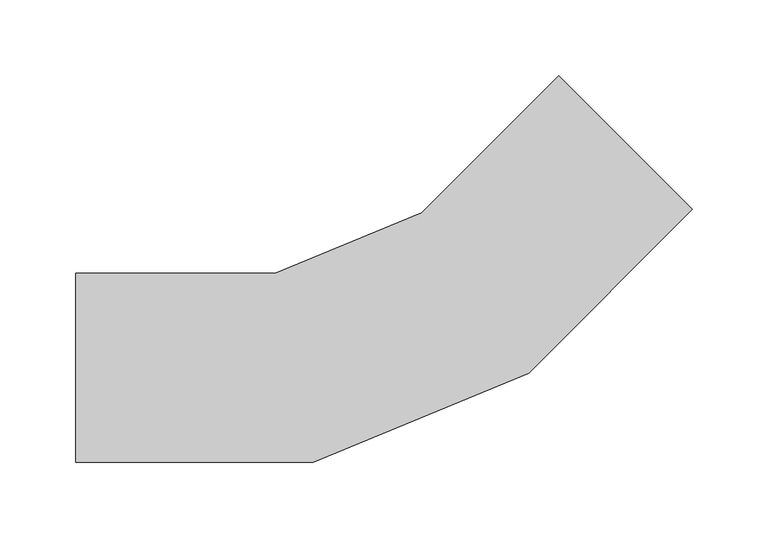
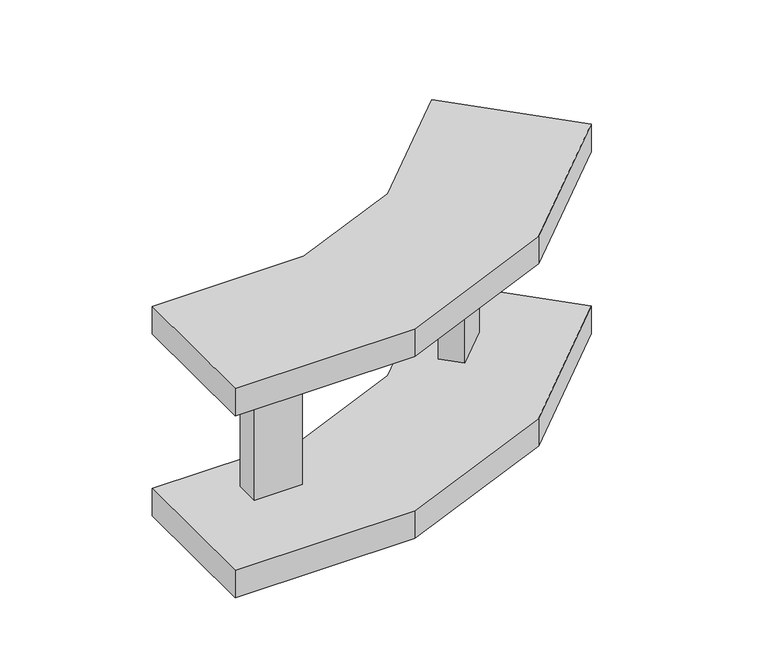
"""IFC4 building model written with IfcOpenShell, lengths in millimetres: cable carrier fitting geometry, Legrand_CableLadder_Swifts_Sapphire_OutsideRiser-13 : Hot Dip Galvanised (after manufacture)."""

from ifc_helpers import new_model, si_unit, frame, origin, place, context, project, spatial, polyline, outline, extrude, source, transform, mapped, element, save


def cable_carrier_fitting_65ff17de(model_context):
    return source(origin(), model_context, "Body", "SweptSolid", [
        extrude(outline(polyline([(-155.8265146, 31.5), (-113.8265146, 31.5), (-113.8265146, 10.5), (-155.8265146, 10.5), (-155.8265146, 31.5)])), frame((0.0, 0.0, -71.5), z_axis=(0.0, 0.0, 1.0), x_axis=(1.0, 0.0, 0.0)), (0.0, 0.0, 1.0), 143.0),
        extrude(outline(polyline([(58.2136367, 102.7613639), (87.9121215, 132.4598487), (102.7613639, 117.6106063), (73.0628791, 87.9121215), (58.2136367, 102.7613639)])), frame((0.0, 0.0, -71.5), z_axis=(0.0, 0.0, 1.0), x_axis=(1.0, 0.0, 0.0)), (0.0, 0.0, 1.0), 143.0),
        extrude(outline(polyline([(-57.648516, -62.5), (-214.8265146, -62.5), (-214.8265146, 62.5), (-82.5125619, 62.5), (14.1510183, 102.5393659), (105.0241056, 193.4124533), (193.4124533, 105.0241056), (84.9578304, -3.4305172), (-57.648516, -62.5)])), frame((0.0, 0.0, -97.0), z_axis=(0.0, 0.0, 1.0), x_axis=(1.0, 0.0, 0.0)), (0.0, 0.0, 1.0), 25.5),
        extrude(outline(polyline([(-214.8265146, -62.5), (-214.8265146, 62.5), (-82.5125619, 62.5), (14.1510183, 102.5393659), (105.0241056, 193.4124533), (193.4124533, 105.0241056), (84.9578304, -3.4305172), (-57.648516, -62.5), (-214.8265146, -62.5)])), frame((0.0, 0.0, 71.5), z_axis=(0.0, 0.0, 1.0), x_axis=(1.0, 0.0, 0.0)), (0.0, 0.0, 1.0), 25.5),
    ])


if __name__ == "__main__":
    model = new_model("IFC4")
    model_context = context("Model", 3, world=origin())
    ifc_project = project(units=[si_unit("LENGTHUNIT", "METRE", prefix="MILLI")], contexts=[model_context])
    site = spatial("IfcSite", under=ifc_project)
    building = spatial("IfcBuilding", under=site)
    placement = place(None, origin())
    cable_carrier_fitting_shape = cable_carrier_fitting_65ff17de(model_context)
    element("IfcCableCarrierFitting", 1, ObjectType="Legrand_CableLadder_Swifts_Sapphire_OutsideRiser-13 : Hot Dip Galvanised (after manufacture)", at=placement, inside=building, context=model_context, shape_type="MappedRepresentation", body=[
        mapped(cable_carrier_fitting_shape, transform((0.0, 0.0, 0.0), x_axis=(1.0, 0.0, 0.0), y_axis=(0.0, 1.0, 0.0), z_axis=(0.0, 0.0, 1.0))),
    ])
    save(model, "model.ifc")
